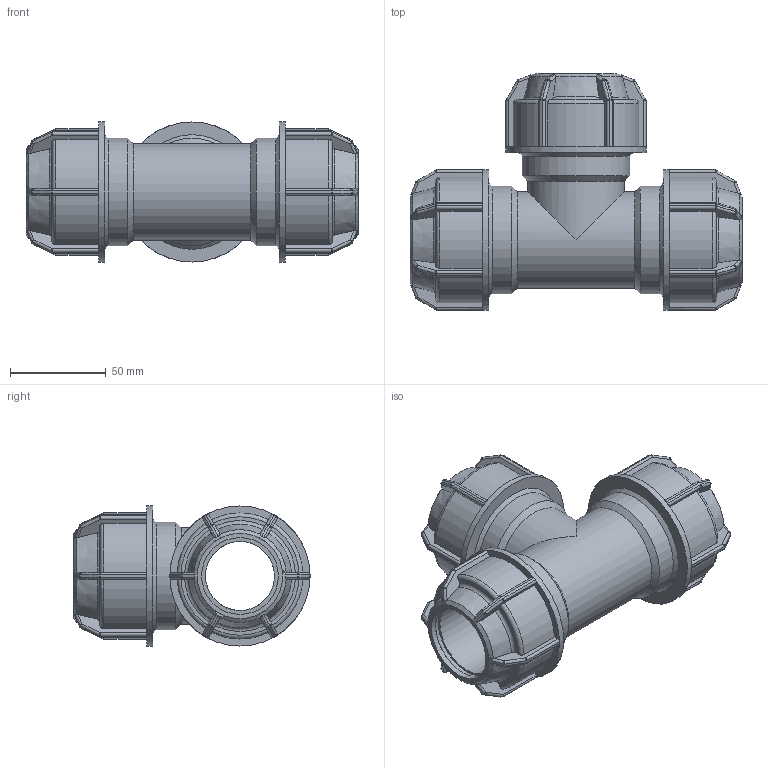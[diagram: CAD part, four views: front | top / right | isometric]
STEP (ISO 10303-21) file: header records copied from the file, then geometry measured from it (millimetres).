
FILE_DESCRIPTION(/* description */ ('PLASSON L.14 TEE (SILVER) 40-40-40'),/* implementation_level */ '2;1');
FILE_NAME(/* name */ 'C:\Dropbox\KIMPROJECTS-Inventor\99-16-3568-Processing\Silver+MF ISRAEL\140400\140400040.ipt.stp',/* time_stamp */ '2018-04-09T13:03:41+03:00',/* author */ ('KIM'),/* organization */ (''),/* preprocessor_version */ 'ST-DEVELOPER v15.6',/* originating_system */ 'Autodesk Inventor 2015',/* authorisation */ '');
FILE_SCHEMA (('AUTOMOTIVE_DESIGN { 1 0 10303 214 3 1 1 }'));
Length unit declared in the file: millimetre
Products named in the file (1): 140400040
Bounding box: 173 x 123 x 73 mm (x, y, z)
Volume: 336089.5 mm3; surface area: 88433.4 mm2
Topology: 1 solids, 1 shells, 608 faces, 1451 edges, 837 vertices
Faces by surface type: plane 289, cylinder 178, sphere 72, torus 42, cone 27
Full cylindrical faces by diameter (mm): 36 x2, 40 x6, 50.4 x2, 56 x3, 73 x3
Entity records: 17588 total; most frequent: CARTESIAN_POINT 4480, DIRECTION 2760, ORIENTED_EDGE 2708, EDGE_CURVE 1354, AXIS2_PLACEMENT_3D 1110, VERTEX_POINT 796, EDGE_LOOP 646, FACE_OUTER_BOUND 601
